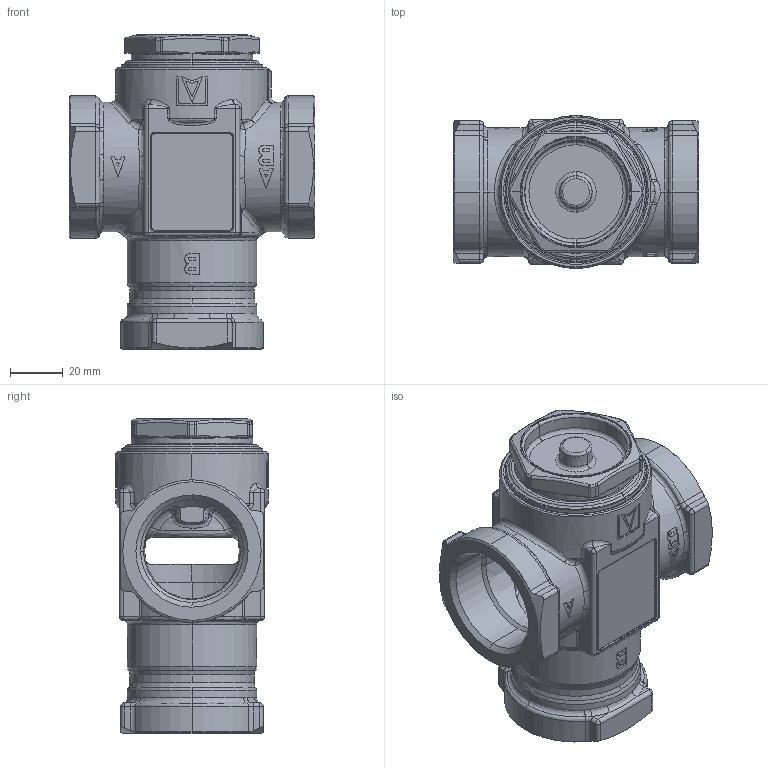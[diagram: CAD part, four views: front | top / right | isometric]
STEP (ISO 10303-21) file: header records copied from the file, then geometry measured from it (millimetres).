
FILE_DESCRIPTION (( 'STEP AP214' ), '1' );
FILE_NAME ('ATV553.STEP', '2022-03-03T14:35:59', ( '' ), ( '' ), 'SwSTEP 2.0', 'SolidWorks 2021', '' );
FILE_SCHEMA (( 'AUTOMOTIVE_DESIGN' ));
Length unit declared in the file: millimetre
Products named in the file (4): 41270; 77043_oa_0; 41279; ATV553
Assembly tree (3 placements, depth 2):
  ATV553
    41270
    41279
    77043_oa_0
Bounding box: 93 x 57.8 x 119.1 mm (x, y, z)
Volume: 138054.7 mm3; surface area: 62968.7 mm2
Topology: 3 solids, 3 shells, 995 faces, 2456 edges, 1465 vertices
Faces by surface type: bspline 358, cylinder 358, plane 193, cone 86
Entity records: 48881 total; most frequent: CARTESIAN_POINT 26685, ORIENTED_EDGE 4828, DIRECTION 3144, EDGE_CURVE 2414, VERTEX_POINT 1465, AXIS2_PLACEMENT_3D 1241, B_SPLINE_CURVE_WITH_KNOTS 1097, EDGE_LOOP 1043
